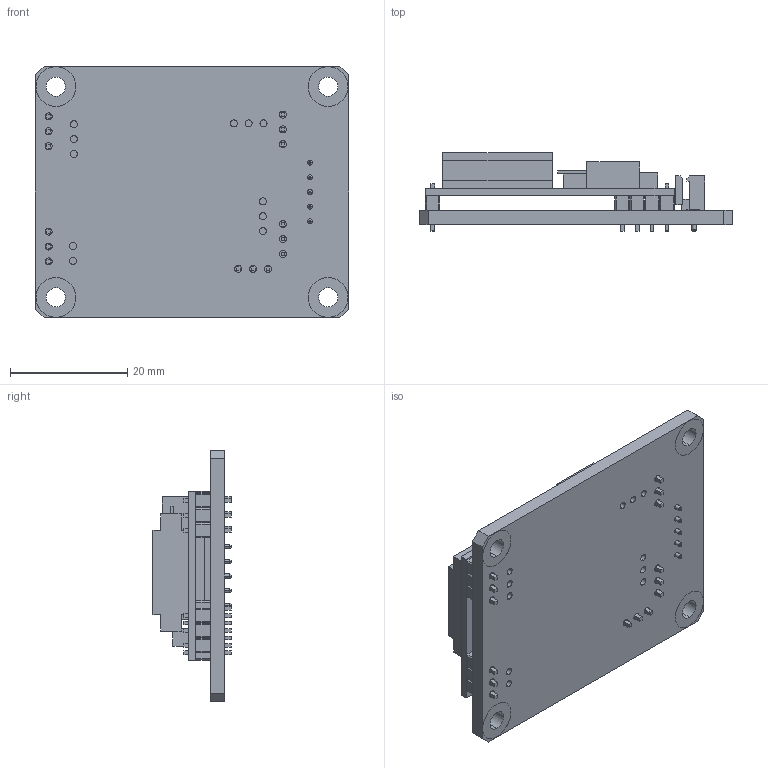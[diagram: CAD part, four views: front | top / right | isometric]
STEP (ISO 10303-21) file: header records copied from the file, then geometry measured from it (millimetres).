
FILE_DESCRIPTION (( 'STEP AP203' ), '1' );
FILE_NAME ('BSSP-F100W-V.STEP', '2016-07-23T17:15:20', ( 'gregory' ), ( '' ), 'SwSTEP 2.0', 'SolidWorks 2011', '' );
FILE_SCHEMA (( 'CONFIG_CONTROL_DESIGN' ));
Length unit declared in the file: millimetre
Products named in the file (1): BSSP-F100W-V
Bounding box: 53.5 x 13.34 x 43 mm (x, y, z)
Volume: 10267.6 mm3; surface area: 10028.9 mm2
Topology: 1 solids, 1 shells, 578 faces, 1469 edges, 964 vertices
Faces by surface type: plane 452, cylinder 106, torus 20
Entity records: 18394 total; most frequent: CARTESIAN_POINT 4012, ORIENTED_EDGE 2938, DIRECTION 2839, EDGE_CURVE 1469, VECTOR 1217, LINE 1217, VERTEX_POINT 964, AXIS2_PLACEMENT_3D 811
